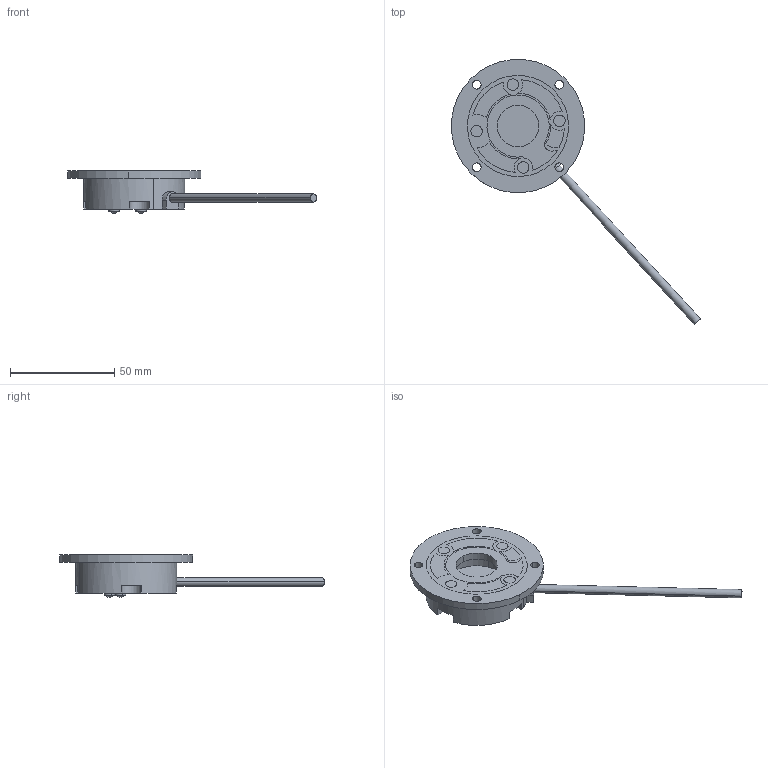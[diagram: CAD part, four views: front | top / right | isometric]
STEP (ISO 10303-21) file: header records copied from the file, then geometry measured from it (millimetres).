
FILE_DESCRIPTION (( 'STEP AP203' ), '1' );
FILE_NAME ('SU30.STEP', '2016-06-21T01:00:53', ( '' ), ( '' ), 'SwSTEP 2.0', 'SolidWorks 2014', '' );
FILE_SCHEMA (( 'CONFIG_CONTROL_DESIGN' ));
Length unit declared in the file: metre
Products named in the file (3): SU30; SU30-90-45
Assembly tree (2 placements, depth 2):
  SU30
    (unnamed)
    SU30-90-45
Bounding box: 119.36 x 127.02 x 20.17 mm (x, y, z)
Volume: 27929.9 mm3; surface area: 19945.7 mm2
Topology: 3 solids, 3 shells, 91 faces, 231 edges, 154 vertices
Faces by surface type: cylinder 59, plane 27, bspline 5
Entity records: 3560 total; most frequent: CARTESIAN_POINT 930, DIRECTION 525, ORIENTED_EDGE 462, EDGE_CURVE 231, AXIS2_PLACEMENT_3D 213, VERTEX_POINT 154, CIRCLE 122, EDGE_LOOP 117
